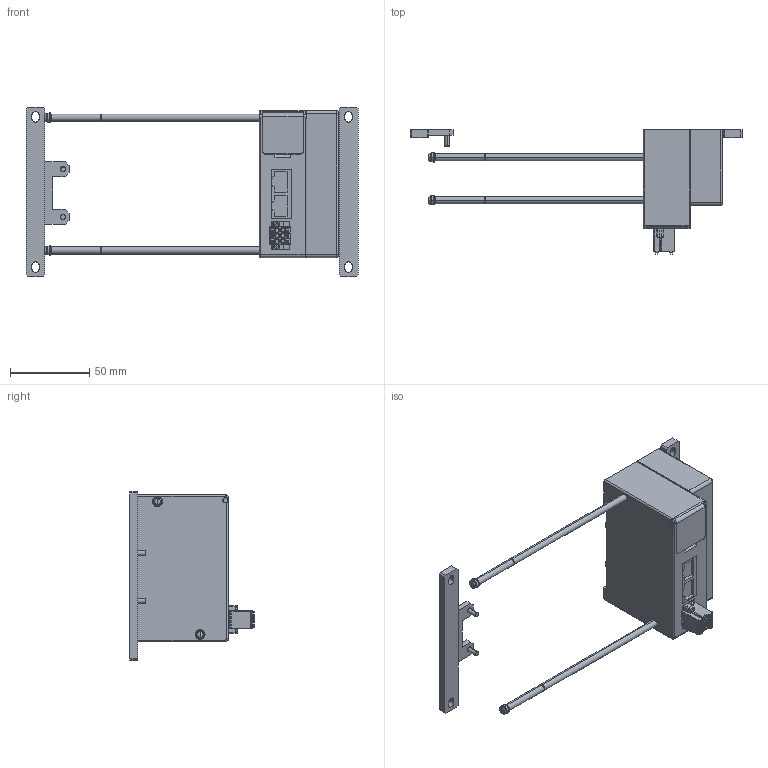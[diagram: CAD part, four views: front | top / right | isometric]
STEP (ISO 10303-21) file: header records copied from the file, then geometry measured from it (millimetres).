
FILE_DESCRIPTION( (''), '2;1');
FILE_NAME ('YS8EK3-6.stp','2022-12-01T14:39:42',(''),(''),'spGate 12.6.6','','');
FILE_SCHEMA (('AUTOMOTIVE_DESIGN'));
Length unit declared in the file: millimetre
Products named in the file (3): Assembly; YS8EK3-6-prt0; YS8EK3-6-prt1
Assembly tree (3 placements, depth 2):
  Assembly
    YS8EK3-6-prt0  x2
    YS8EK3-6-prt1
Bounding box: 210 x 78.8 x 107 mm (x, y, z)
Volume: 272902.9 mm3; surface area: 45053.6 mm2
Topology: 3 solids, 3 shells, 833 faces, 2143 edges, 1367 vertices
Faces by surface type: plane 501, cylinder 242, bspline 78, sphere 12
Entity records: 40297 total; most frequent: CARTESIAN_POINT 5605, ORIENTED_EDGE 3982, DIRECTION 3733, COLOUR_RGB 2768, PRESENTATION_STYLE_ASSIGNMENT 2768, STYLED_ITEM 2768, EDGE_CURVE 1991, DRAUGHTING_PRE_DEFINED_CURVE_FONT 1991
